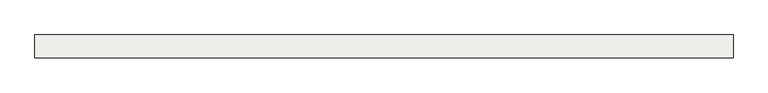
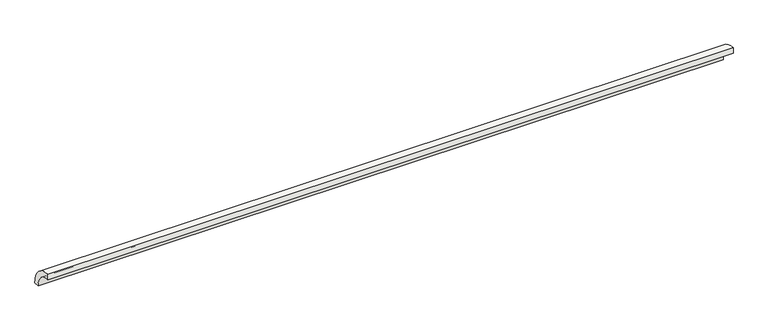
"""IFC4 building model written with IfcOpenShell, lengths in millimetres: slab geometry, ROSA GRES_138 : Pieza 138_Aqua_Plomo_Anti-Slip."""

from ifc_helpers import new_model, si_unit, point, frame, frame_2d, origin, origin_2d, place, context, project, spatial, polyline, circle_curve, trimmed, segment, composite_curve, outline, extrude, source, transform, mapped, element, save


def slab_a5006e50(model_context):
    return source(origin(), model_context, "Body", "SweptSolid", [
        extrude(outline(composite_curve([segment(trimmed(circle_curve(origin_2d(), 40.0), [point((0.0, 40.0))], [point((40.0, 0.0))], False, "CARTESIAN"), True, "CONTINUOUS"), segment(polyline([(40.0, 0.0), (30.0265886, 0.0)]), True, "CONTINUOUS"), segment(trimmed(circle_curve(frame_2d((0.0044453, 0.0044453)), 30.0221435), [point((30.0265886, 0.0))], [point((0.0, 30.0265886))], True, "CARTESIAN"), True, "CONTINUOUS"), segment(polyline([(0.0, 30.0265886), (0.0, 40.0)]), True, "CONTINUOUS")], self_intersect=False)), frame((0.0, 0.0, 0.0), z_axis=(1.0, 0.0, 0.0), x_axis=(0.0, 1.0, 0.0)), (0.0, 0.0, 1.0), 1210.0),
    ])


if __name__ == "__main__":
    model = new_model("IFC4")
    model_context = context("Model", 3, world=origin())
    ifc_project = project(units=[si_unit("LENGTHUNIT", "METRE", prefix="MILLI")], contexts=[model_context])
    site = spatial("IfcSite", under=ifc_project)
    building = spatial("IfcBuilding", under=site)
    placement = place(None, origin())
    slab_shape = slab_a5006e50(model_context)
    element("IfcSlab", 1, ObjectType="ROSA GRES_138 : Pieza 138_Aqua_Plomo_Anti-Slip", at=placement, inside=building, context=model_context, shape_type="MappedRepresentation", body=[
        mapped(slab_shape, transform((0.0, 0.0, 0.0), x_axis=(1.0, 0.0, 0.0), y_axis=(0.0, 1.0, 0.0), z_axis=(0.0, 0.0, 1.0))),
    ])
    save(model, "model.ifc")
